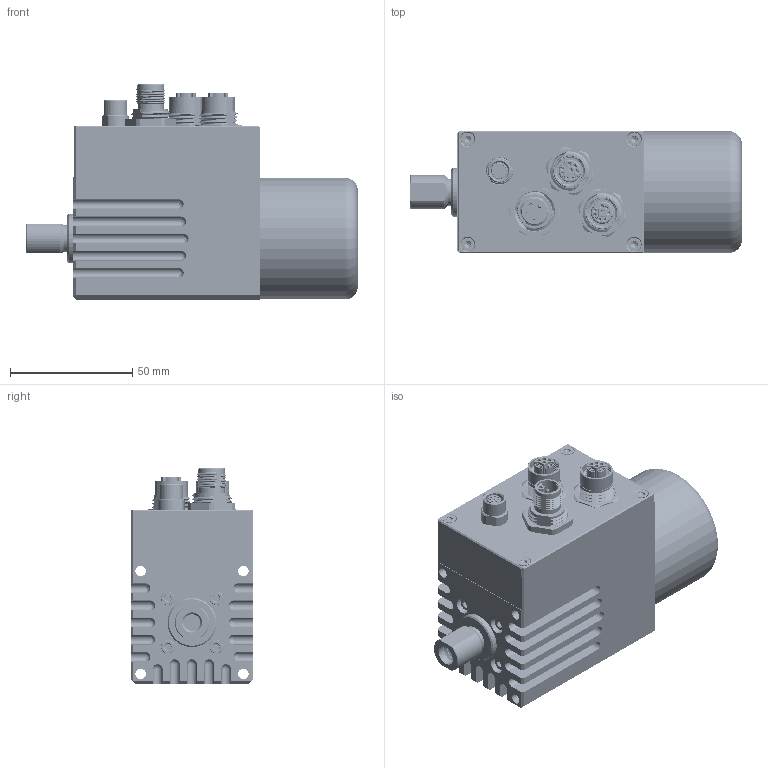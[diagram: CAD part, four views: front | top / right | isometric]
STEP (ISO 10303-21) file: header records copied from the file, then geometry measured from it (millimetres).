
FILE_DESCRIPTION(/* description */ (''),/* implementation_level */ '2;1');
FILE_NAME(/* name */ 'Envelope_LE-ICAT.A.50.XXXX.085_8N.step',/* time_stamp */ '2025-06-06T15:01:47+02:00',/* author */ (''),/* organization */ (''),/* preprocessor_version */ 'ST-DEVELOPER v20.1',/* originating_system */ 'Autodesk Translation Framework v14.10.0.0',/* authorisation */ '');
FILE_SCHEMA (('AUTOMOTIVE_DESIGN { 1 0 10303 214 3 1 1 }'));
Products named in the file (15): 8N_085; 91290A115_Alloy Steel Socket Head Screw; 02-M-P.CO-50.40.F00; ASMBL_ICAT-Deckel; ASMBL_M12_Amissiontech_8P-Y_female_rear_AM12F0822Y002; 02-M-C.CP-50.ICAT.F00; ASMBL_M12_Amissiontech_8P-Y_female_rear_AM12F0822Y002_1; M12_Amissiontech_8P-Y_female_rear_AM12F0822Y002; ASMBL_M12_Pheonix_5P-L_1425590; M12_Pheonix_5P-L_1425590; ASMBL_M8_CUI_8P-A_female; M8_CUI_8P_female_CDM805-08A-FP-F011-67; CDM805 HOUSING; M8_PINS_FEMALE_FRONT_8P; 90236A121_Zinc-Plated Steel Torx Flat Head Screws
Assembly tree (21 placements, depth 5):
  8N_085
    91290A115_Alloy Steel Socket Head Screw  x4
    02-M-P.CO-50.40.F00
    ASMBL_ICAT-Deckel
      ASMBL_M12_Amissiontech_8P-Y_female_rear_AM12F0822Y002
        M12_Amissiontech_8P-Y_female_rear_AM12F0822Y002
      02-M-C.CP-50.ICAT.F00
      ASMBL_M12_Amissiontech_8P-Y_female_rear_AM12F0822Y002_1
        M12_Amissiontech_8P-Y_female_rear_AM12F0822Y002
      ASMBL_M12_Pheonix_5P-L_1425590
        M12_Pheonix_5P-L_1425590
      ASMBL_M8_CUI_8P-A_female
        M8_CUI_8P_female_CDM805-08A-FP-F011-67
          CDM805 HOUSING
          M8_PINS_FEMALE_FRONT_8P
    90236A121_Zinc-Plated Steel Torx Flat Head Screws  x4
Bounding box: 135.6 x 50 x 88 mm (x, y, z)
Volume: 273428.7 mm3; surface area: 84902.9 mm2
Topology: 18 solids, 28 shells, 2523 faces, 6785 edges, 4389 vertices
Faces by surface type: cylinder 900, plane 804, cone 311, bspline 304, torus 160, sphere 44
Full cylindrical faces by diameter (mm): 0.6 x16, 0.7 x8, 0.75 x8, 0.8 x16, 1 x14, 1.05 x8, 1.1 x16, 1.2 x16, 1.24 x8, 1.3 x5, 1.5 x4, 1.52 x1, 1.55 x25, 1.6 x32, 2.1 x6, 2.35 x136, 3 x136, 3.4 x8, 4.3 x4, 5.5 x4, 5.6 x1, 6 x2, 6.5 x4, 6.779 x4, 6.8 x1, 7.2 x1, 8.17 x2, 8.25 x7, 8.9 x5, 8.95 x2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
Entity records: 81070 total; most frequent: CARTESIAN_POINT 45837, ORIENTED_EDGE 7854, DIRECTION 6535, EDGE_CURVE 3927, VERTEX_POINT 2573, AXIS2_PLACEMENT_3D 2565, EDGE_LOOP 1666, FACE_OUTER_BOUND 1485
